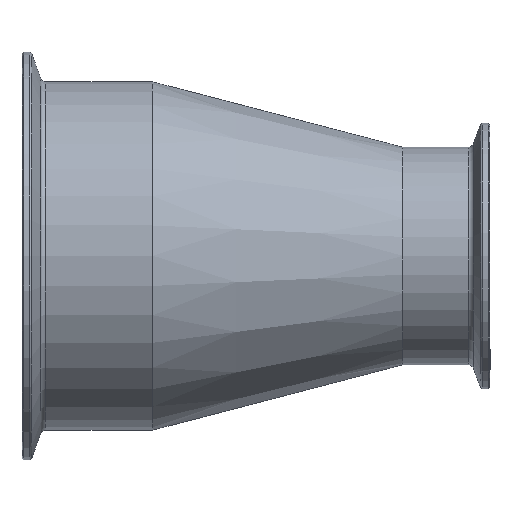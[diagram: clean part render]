
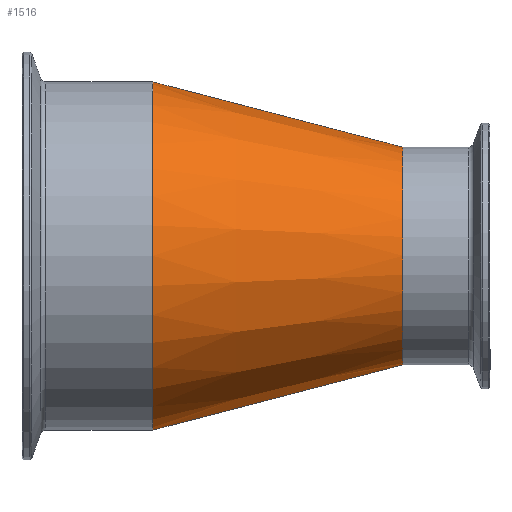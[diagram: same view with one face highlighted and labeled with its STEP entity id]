
A CAD part, top view. The second image highlights one B-rep face of the part: STEP entity #1516.
In plain terms, the highlighted conical face has half-angle 14.621 degrees and reference radius 31.75 mm.
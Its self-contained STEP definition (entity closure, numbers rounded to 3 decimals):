
#100 = CARTESIAN_POINT ( 'NONE',  ( -50.297, -50.774, 0. ) ) ;
#131 = CARTESIAN_POINT ( 'NONE',  ( -50.297, 50.774, 0. ) ) ;
#164 = ORIENTED_EDGE ( 'NONE', *, *, #500, .T. ) ;
#231 = CIRCLE ( 'NONE', #578, 31.75 ) ;
#232 = CARTESIAN_POINT ( 'NONE',  ( 22.63, 0., 0. ) ) ;
#240 = ORIENTED_EDGE ( 'NONE', *, *, #1475, .F. ) ;
#348 = CARTESIAN_POINT ( 'NONE',  ( 22.63, 31.75, 0. ) ) ;
#370 = DIRECTION ( 'NONE',  ( 1., 0., 0. ) ) ;
#472 = EDGE_CURVE ( 'NONE', #738, #765, #231, .T. ) ;
#499 = CIRCLE ( 'NONE', #742, 50.774 ) ;
#500 = EDGE_CURVE ( 'NONE', #1365, #1243, #499, .T. ) ;
#526 = EDGE_LOOP ( 'NONE', ( #1428, #1593, #164, #240 ) ) ;
#539 = CONICAL_SURFACE ( 'NONE', #792, 31.75, 0.255 ) ;
#578 = AXIS2_PLACEMENT_3D ( 'NONE', #232, #370, #788 ) ;
#659 = DIRECTION ( 'NONE',  ( -1., 0., 0. ) ) ;
#676 = DIRECTION ( 'NONE',  ( 0., 1., 0. ) ) ;
#738 = VERTEX_POINT ( 'NONE', #1180 ) ;
#742 = AXIS2_PLACEMENT_3D ( 'NONE', #746, #1567, #676 ) ;
#746 = CARTESIAN_POINT ( 'NONE',  ( -50.297, 0., 0. ) ) ;
#765 = VERTEX_POINT ( 'NONE', #1202 ) ;
#783 = DIRECTION ( 'NONE',  ( -0.968, -0.252, 0. ) ) ;
#787 = DIRECTION ( 'NONE',  ( 0., -1., 0. ) ) ;
#788 = DIRECTION ( 'NONE',  ( 0., 1., 0. ) ) ;
#792 = AXIS2_PLACEMENT_3D ( 'NONE', #1326, #659, #787 ) ;
#794 = LINE ( 'NONE', #348, #1455 ) ;
#967 = LINE ( 'NONE', #1163, #1303 ) ;
#1163 = CARTESIAN_POINT ( 'NONE',  ( 22.63, -31.75, 0. ) ) ;
#1180 = CARTESIAN_POINT ( 'NONE',  ( 22.63, 31.75, 0. ) ) ;
#1202 = CARTESIAN_POINT ( 'NONE',  ( 22.63, -31.75, 0. ) ) ;
#1243 = VERTEX_POINT ( 'NONE', #100 ) ;
#1303 = VECTOR ( 'NONE', #783, 1000. ) ;
#1326 = CARTESIAN_POINT ( 'NONE',  ( 22.63, 0., 0. ) ) ;
#1344 = EDGE_CURVE ( 'NONE', #738, #1365, #794, .T. ) ;
#1360 = DIRECTION ( 'NONE',  ( -0.968, 0.252, 0. ) ) ;
#1365 = VERTEX_POINT ( 'NONE', #131 ) ;
#1428 = ORIENTED_EDGE ( 'NONE', *, *, #472, .F. ) ;
#1455 = VECTOR ( 'NONE', #1360, 1000. ) ;
#1475 = EDGE_CURVE ( 'NONE', #765, #1243, #967, .T. ) ;
#1516 = ADVANCED_FACE ( 'NONE', ( #1533 ), #539, .T. ) ;
#1533 = FACE_OUTER_BOUND ( 'NONE', #526, .T. ) ;
#1567 = DIRECTION ( 'NONE',  ( 1., 0., 0. ) ) ;
#1593 = ORIENTED_EDGE ( 'NONE', *, *, #1344, .T. ) ;
